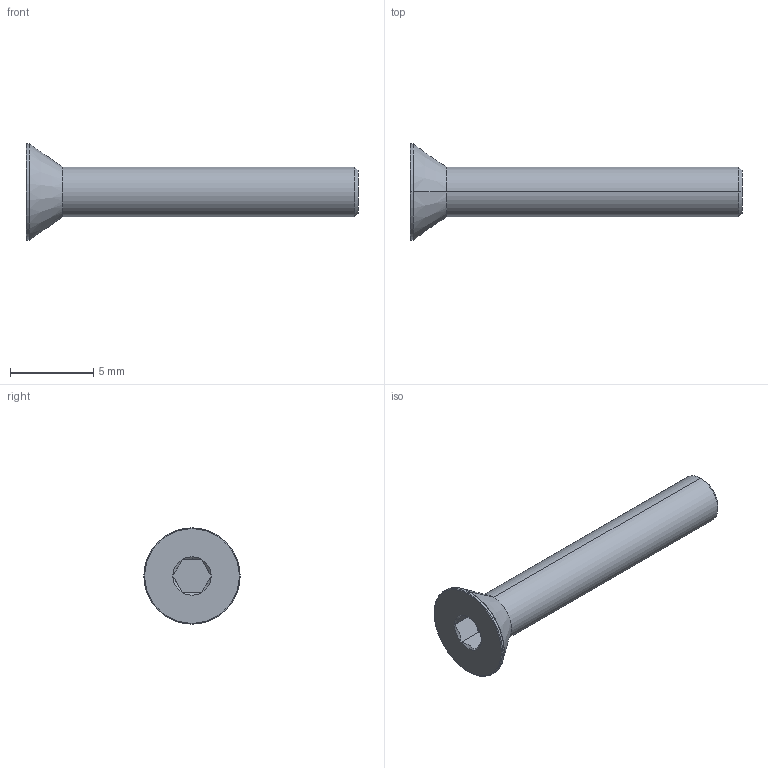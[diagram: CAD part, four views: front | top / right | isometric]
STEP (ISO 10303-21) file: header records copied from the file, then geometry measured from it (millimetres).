
FILE_DESCRIPTION (( 'STEP AP203' ), '1' );
FILE_NAME ('LGDB-304-M3x20.STEP', '2026-08-10T14:07:16', ( '' ), ( '' ), 'SwSTEP 2.0', 'SolidWorks 2020', '' );
FILE_SCHEMA (( 'CONFIG_CONTROL_DESIGN' ));
Length unit declared in the file: millimetre
Products named in the file (1): LGDB-304-M3x20
Bounding box: 20 x 5.8 x 5.8 mm (x, y, z)
Volume: 157.1 mm3; surface area: 247.1 mm2
Topology: 1 solids, 1 shells, 28 faces, 53 edges, 28 vertices
Faces by surface type: cone 11, plane 9, torus 4, cylinder 4
Entity records: 780 total; most frequent: CARTESIAN_POINT 141, DIRECTION 129, ORIENTED_EDGE 106, AXIS2_PLACEMENT_3D 54, EDGE_CURVE 53, EDGE_LOOP 29, FACE_OUTER_BOUND 28, VERTEX_POINT 28
